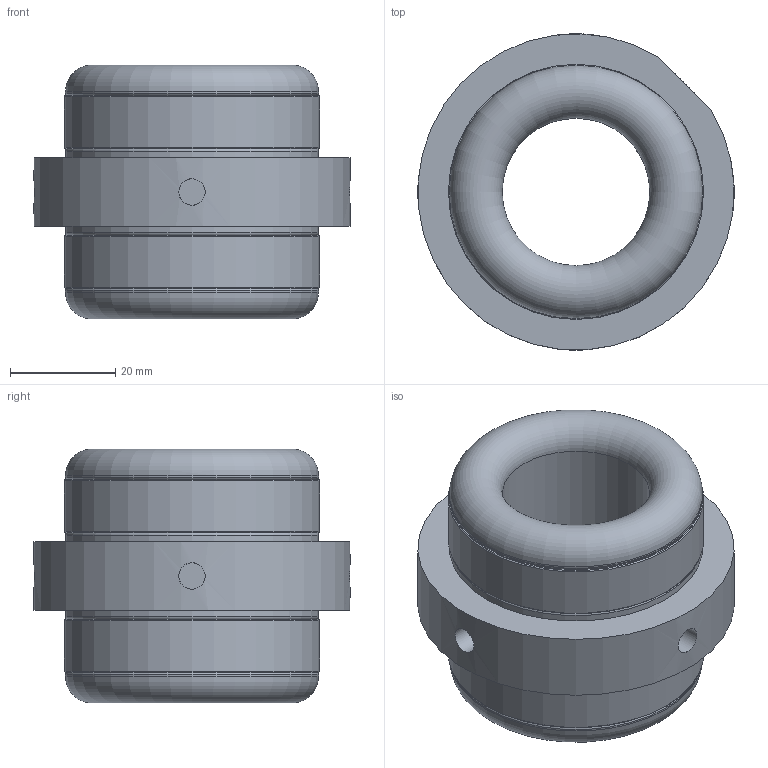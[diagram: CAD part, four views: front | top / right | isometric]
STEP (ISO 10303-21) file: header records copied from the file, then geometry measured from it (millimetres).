
FILE_DESCRIPTION(('STEP AP214'),'1');
FILE_NAME('CA.09.13.10.25.stp','2019-06-07T14:07:05',(' '),(' '),'Spatial InterOp 3D',' ',' ');
FILE_SCHEMA(('AUTOMOTIVE_DESIGN { 1 0 10303 214 1 1 1 1 }'));
Length unit declared in the file: millimetre
Products named in the file (5): CA.09.13.10.25; 1320; 1320_1; 1320_3; 1320_5
Assembly tree (4 placements, depth 2):
  CA.09.13.10.25
    1320
    1320_1
    1320_3
    1320_5
Bounding box: 60 x 60 x 48.14 mm (x, y, z)
Volume: 67875.4 mm3; surface area: 29713.8 mm2
Topology: 4 solids, 4 shells, 46 faces, 85 edges, 55 vertices
Faces by surface type: cylinder 19, plane 17, torus 10
Full cylindrical faces by diameter (mm): 5 x5, 28 x1, 30 x2, 46 x4, 48 x4, 48.4 x2
Entity records: 1744 total; most frequent: CARTESIAN_POINT 462, DIRECTION 188, ORIENTED_EDGE 100, AXIS2_PLACEMENT_3D 92, EDGE_LOOP 92, FACE_OUTER_BOUND 74, EDGE_CURVE 50, VERTEX_POINT 48
